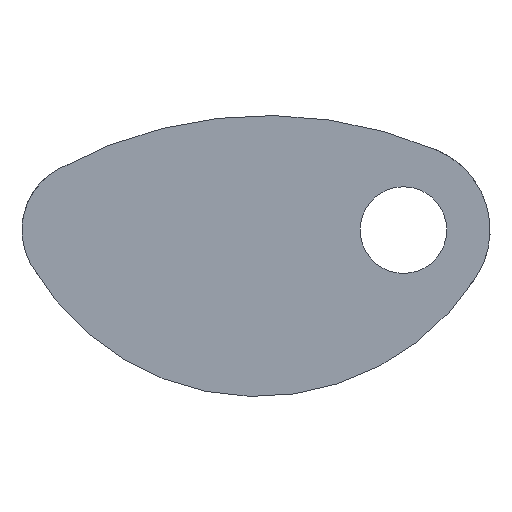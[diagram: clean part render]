
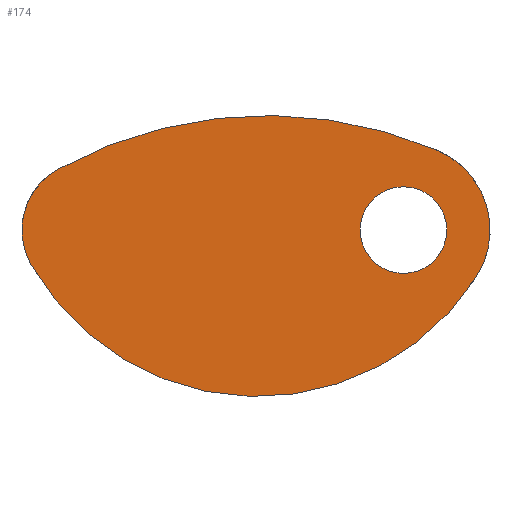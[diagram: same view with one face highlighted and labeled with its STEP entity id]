
A CAD part, front view. The second image highlights one B-rep face of the part: STEP entity #174.
In plain terms, the highlighted planar face has unit normal (0, -1, 0).
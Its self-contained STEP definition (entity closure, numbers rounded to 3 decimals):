
#35=FACE_BOUND('',#55,.T.);
#44=FACE_OUTER_BOUND('',#54,.T.);
#54=EDGE_LOOP('',(#157,#158,#159,#160));
#55=EDGE_LOOP('',(#161));
#68=CIRCLE('',#211,12.5);
#69=CIRCLE('',#213,20.);
#70=CIRCLE('',#215,125.);
#71=CIRCLE('',#217,25.);
#72=CIRCLE('',#219,75.);
#85=VERTEX_POINT('',#311);
#86=VERTEX_POINT('',#315);
#87=VERTEX_POINT('',#317);
#88=VERTEX_POINT('',#322);
#89=VERTEX_POINT('',#326);
#102=EDGE_CURVE('',#85,#85,#68,.T.);
#105=EDGE_CURVE('',#87,#86,#69,.T.);
#108=EDGE_CURVE('',#88,#87,#70,.T.);
#110=EDGE_CURVE('',#89,#88,#71,.T.);
#113=EDGE_CURVE('',#86,#89,#72,.T.);
#157=ORIENTED_EDGE('',*,*,#113,.T.);
#158=ORIENTED_EDGE('',*,*,#110,.T.);
#159=ORIENTED_EDGE('',*,*,#108,.T.);
#160=ORIENTED_EDGE('',*,*,#105,.T.);
#161=ORIENTED_EDGE('',*,*,#102,.T.);
#165=PLANE('',#220);
#174=ADVANCED_FACE('',(#44,#35),#165,.F.);
#211=AXIS2_PLACEMENT_3D('',#312,#255,#256);
#213=AXIS2_PLACEMENT_3D('',#318,#261,#262);
#215=AXIS2_PLACEMENT_3D('',#323,#267,#268);
#217=AXIS2_PLACEMENT_3D('',#327,#272,#273);
#219=AXIS2_PLACEMENT_3D('',#331,#278,#279);
#220=AXIS2_PLACEMENT_3D('',#332,#280,#281);
#255=DIRECTION('center_axis',(0.,1.,0.));
#256=DIRECTION('ref_axis',(1.,0.,0.));
#261=DIRECTION('center_axis',(0.,-1.,0.));
#262=DIRECTION('ref_axis',(-0.871,0.,-0.491));
#267=DIRECTION('center_axis',(0.,-1.,0.));
#268=DIRECTION('ref_axis',(-0.483,0.,0.876));
#272=DIRECTION('center_axis',(0.,-1.,0.));
#273=DIRECTION('ref_axis',(0.393,0.,0.92));
#278=DIRECTION('center_axis',(0.,-1.,0.));
#279=DIRECTION('ref_axis',(0.842,0.,-0.54));
#280=DIRECTION('center_axis',(0.,1.,0.));
#281=DIRECTION('ref_axis',(0.,0.,1.));
#311=CARTESIAN_POINT('',(-12.5,-10.,0.));
#312=CARTESIAN_POINT('Origin',(0.,-10.,0.));
#315=CARTESIAN_POINT('',(-107.424,-10.,-9.818));
#317=CARTESIAN_POINT('',(-99.656,-10.,17.515));
#318=CARTESIAN_POINT('Origin',(-90.,-10.,0.));
#322=CARTESIAN_POINT('',(9.826,-10.,22.988));
#323=CARTESIAN_POINT('Origin',(-39.306,-10.,-91.951));
#326=CARTESIAN_POINT('',(21.042,-10.,-13.5));
#327=CARTESIAN_POINT('Origin',(0.,-10.,0.));
#331=CARTESIAN_POINT('Origin',(-42.083,-10.,27.));
#332=CARTESIAN_POINT('Origin',(-42.5,-10.,-7.476));
